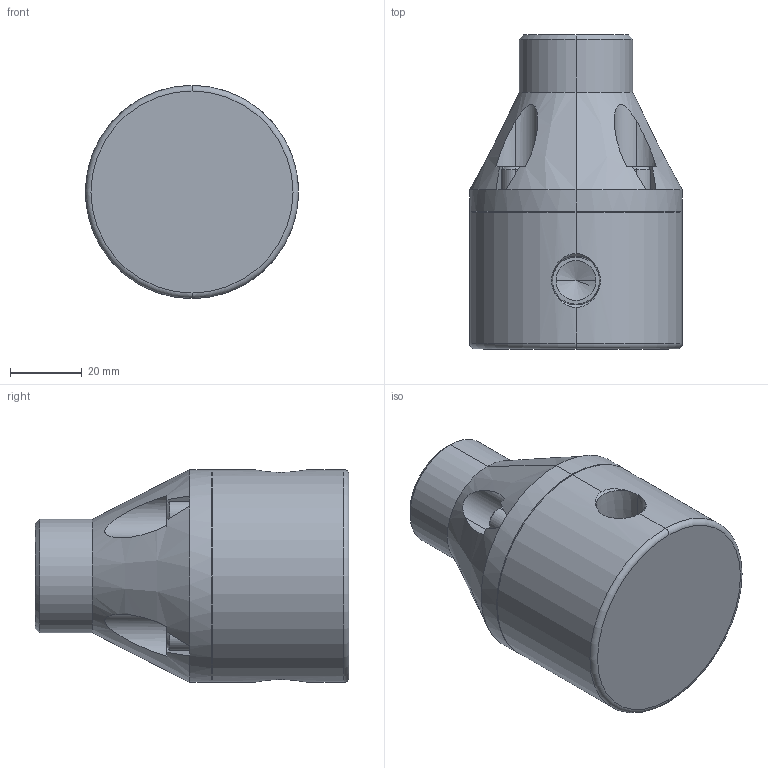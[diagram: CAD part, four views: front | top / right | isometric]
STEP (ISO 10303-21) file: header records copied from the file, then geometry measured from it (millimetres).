
FILE_DESCRIPTION (( 'STEP AP203' ), '1' );
FILE_NAME ('MBP0250-NPT.STEP', '2015-03-17T10:18:11', ( 'Dan Bernard' ), ( '' ), 'SwSTEP 2.0', 'SolidWorks 2008', '' );
FILE_SCHEMA (( 'CONFIG_CONTROL_DESIGN' ));
Length unit declared in the file: inch
Products named in the file (1): MBP0250-NPT
Bounding box: 59.44 x 87.63 x 59.44 mm (x, y, z)
Volume: 174085.1 mm3; surface area: 23895 mm2
Topology: 1 solids, 1 shells, 130 faces, 316 edges, 198 vertices
Faces by surface type: plane 70, cylinder 30, cone 28, torus 2
Entity records: 4181 total; most frequent: CARTESIAN_POINT 1051, DIRECTION 640, ORIENTED_EDGE 624, EDGE_CURVE 312, AXIS2_PLACEMENT_3D 227, VERTEX_POINT 198, VECTOR 186, LINE 186
